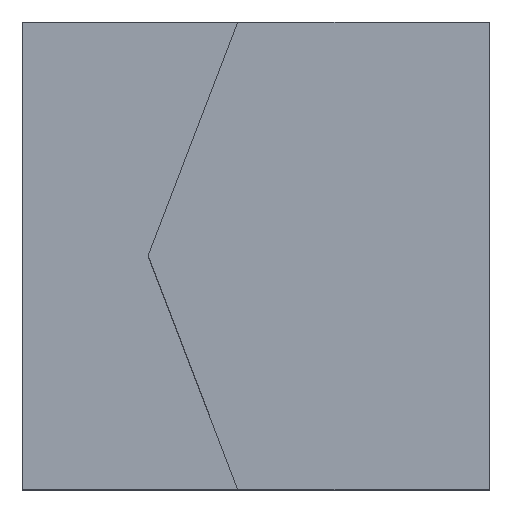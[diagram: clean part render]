
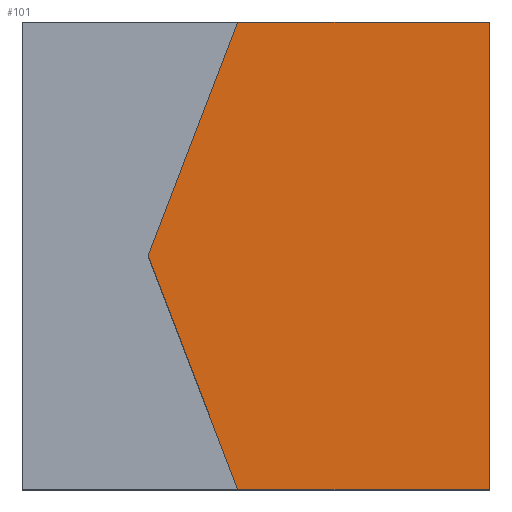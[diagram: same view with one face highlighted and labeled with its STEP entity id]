
A CAD part, top view. The second image highlights one B-rep face of the part: STEP entity #101.
In plain terms, the highlighted planar face has unit normal (0, 0, 1).
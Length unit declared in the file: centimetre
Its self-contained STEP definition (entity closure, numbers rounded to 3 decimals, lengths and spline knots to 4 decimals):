
#27 = EDGE_CURVE ( 'NONE', #189, #465, #90, .T. ) ;
#28 = DIRECTION ( 'NONE',  ( 0., 0., 1. ) ) ;
#50 = DIRECTION ( 'NONE',  ( 0., 1., 0. ) ) ;
#74 = FACE_OUTER_BOUND ( 'NONE', #308, .T. ) ;
#78 = CARTESIAN_POINT ( 'NONE',  ( 460.675, 1000., 1000. ) ) ;
#82 = DIRECTION ( 'NONE',  ( -1., 0., 0. ) ) ;
#87 = ORIENTED_EDGE ( 'NONE', *, *, #241, .F. ) ;
#88 = LINE ( 'NONE', #169, #444 ) ;
#90 = LINE ( 'NONE', #160, #111 ) ;
#101 = ADVANCED_FACE ( 'NONE', ( #74 ), #406, .T. ) ;
#104 = ORIENTED_EDGE ( 'NONE', *, *, #312, .T. ) ;
#111 = VECTOR ( 'NONE', #537, 100. ) ;
#121 = LINE ( 'NONE', #203, #525 ) ;
#127 = VERTEX_POINT ( 'NONE', #364 ) ;
#160 = CARTESIAN_POINT ( 'NONE',  ( 0., 0., 1000. ) ) ;
#169 = CARTESIAN_POINT ( 'NONE',  ( 460.675, 1000., 1000. ) ) ;
#170 = EDGE_CURVE ( 'NONE', #518, #177, #88, .T. ) ;
#177 = VERTEX_POINT ( 'NONE', #78 ) ;
#189 = VERTEX_POINT ( 'NONE', #457 ) ;
#191 = ORIENTED_EDGE ( 'NONE', *, *, #272, .T. ) ;
#203 = CARTESIAN_POINT ( 'NONE',  ( 0., 1000., 1000. ) ) ;
#233 = AXIS2_PLACEMENT_3D ( 'NONE', #532, #28, #367 ) ;
#234 = CARTESIAN_POINT ( 'NONE',  ( 1000., 0., 1000. ) ) ;
#241 = EDGE_CURVE ( 'NONE', #189, #518, #284, .T. ) ;
#268 = VECTOR ( 'NONE', #447, 100. ) ;
#272 = EDGE_CURVE ( 'NONE', #127, #177, #121, .T. ) ;
#284 = LINE ( 'NONE', #497, #268 ) ;
#295 = DIRECTION ( 'NONE',  ( 0.358, 0.934, 0. ) ) ;
#301 = CARTESIAN_POINT ( 'NONE',  ( 1000., 1000., 1000. ) ) ;
#308 = EDGE_LOOP ( 'NONE', ( #352, #87, #379, #104, #191 ) ) ;
#312 = EDGE_CURVE ( 'NONE', #465, #127, #424, .T. ) ;
#316 = CARTESIAN_POINT ( 'NONE',  ( 269.0829, 500., 1000. ) ) ;
#330 = VECTOR ( 'NONE', #50, 100. ) ;
#352 = ORIENTED_EDGE ( 'NONE', *, *, #170, .F. ) ;
#364 = CARTESIAN_POINT ( 'NONE',  ( 1000., 1000., 1000. ) ) ;
#367 = DIRECTION ( 'NONE',  ( 1., 0., 0. ) ) ;
#379 = ORIENTED_EDGE ( 'NONE', *, *, #27, .T. ) ;
#406 = PLANE ( 'NONE',  #233 ) ;
#424 = LINE ( 'NONE', #301, #330 ) ;
#444 = VECTOR ( 'NONE', #295, 100. ) ;
#447 = DIRECTION ( 'NONE',  ( -0.358, 0.934, 0. ) ) ;
#457 = CARTESIAN_POINT ( 'NONE',  ( 460.675, 0., 1000. ) ) ;
#465 = VERTEX_POINT ( 'NONE', #234 ) ;
#497 = CARTESIAN_POINT ( 'NONE',  ( 269.0829, 500., 1000. ) ) ;
#518 = VERTEX_POINT ( 'NONE', #316 ) ;
#525 = VECTOR ( 'NONE', #82, 100. ) ;
#532 = CARTESIAN_POINT ( 'NONE',  ( 0., 0., 1000. ) ) ;
#537 = DIRECTION ( 'NONE',  ( 1., 0., 0. ) ) ;
